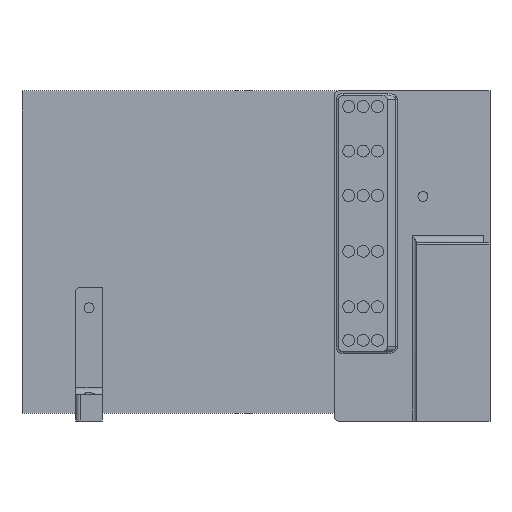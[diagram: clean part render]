
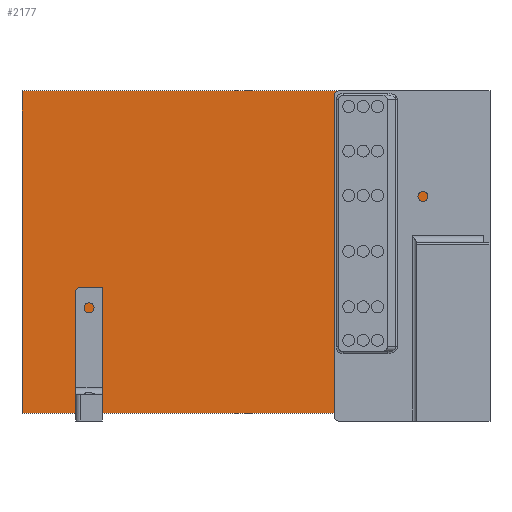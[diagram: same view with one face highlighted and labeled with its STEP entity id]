
A CAD part, left-side view. The second image highlights one B-rep face of the part: STEP entity #2177.
In plain terms, the highlighted planar face has unit normal (-1, 0, 0).
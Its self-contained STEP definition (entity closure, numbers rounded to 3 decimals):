
#116=PLANE('',#2413);
#236=FACE_OUTER_BOUND('',#391,.T.);
#391=EDGE_LOOP('',(#1894,#1895,#1896,#1897));
#568=LINE('',#3693,#758);
#569=LINE('',#3695,#759);
#570=LINE('',#3697,#760);
#571=LINE('',#3698,#761);
#758=VECTOR('',#2995,10.);
#759=VECTOR('',#2996,10.);
#760=VECTOR('',#2997,10.);
#761=VECTOR('',#2998,10.);
#1066=VERTEX_POINT('',#3691);
#1067=VERTEX_POINT('',#3692);
#1068=VERTEX_POINT('',#3694);
#1069=VERTEX_POINT('',#3696);
#1349=EDGE_CURVE('',#1066,#1067,#568,.T.);
#1350=EDGE_CURVE('',#1066,#1068,#569,.T.);
#1351=EDGE_CURVE('',#1069,#1068,#570,.T.);
#1352=EDGE_CURVE('',#1067,#1069,#571,.T.);
#1894=ORIENTED_EDGE('',*,*,#1349,.F.);
#1895=ORIENTED_EDGE('',*,*,#1350,.T.);
#1896=ORIENTED_EDGE('',*,*,#1351,.F.);
#1897=ORIENTED_EDGE('',*,*,#1352,.F.);
#2177=ADVANCED_FACE('',(#236),#116,.T.);
#2413=AXIS2_PLACEMENT_3D('',#3690,#2993,#2994);
#2993=DIRECTION('center_axis',(-1.,0.,0.));
#2994=DIRECTION('ref_axis',(0.,0.,1.));
#2995=DIRECTION('',(0.,0.,-1.));
#2996=DIRECTION('',(0.,1.,0.));
#2997=DIRECTION('',(0.,0.,1.));
#2998=DIRECTION('',(0.,1.,0.));
#3690=CARTESIAN_POINT('Origin',(0.,0.,0.));
#3691=CARTESIAN_POINT('',(0.,0.,144.8));
#3692=CARTESIAN_POINT('',(0.,0.,0.));
#3693=CARTESIAN_POINT('',(0.,0.,144.8));
#3694=CARTESIAN_POINT('',(0.,210.25,144.8));
#3695=CARTESIAN_POINT('',(0.,0.,144.8));
#3696=CARTESIAN_POINT('',(0.,210.25,0.));
#3697=CARTESIAN_POINT('',(0.,210.25,144.8));
#3698=CARTESIAN_POINT('',(0.,0.,0.));
